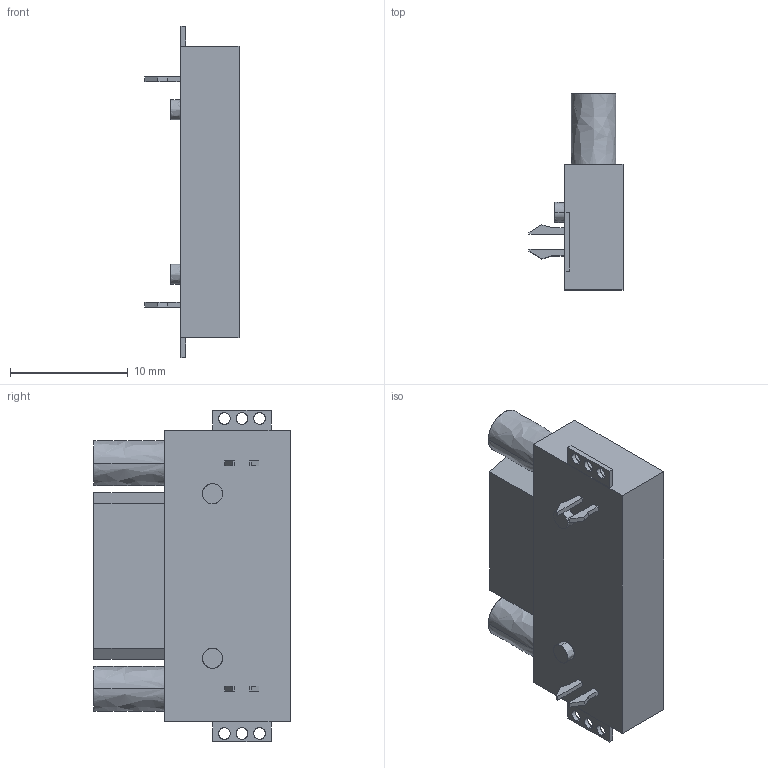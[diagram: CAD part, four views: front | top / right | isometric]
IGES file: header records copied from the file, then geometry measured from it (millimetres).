
Start section:  PTC IGES file: j5d-cn40a.igs
Global section: file name: j5d-cn40a.igs; native system: Creo Parametric by PTC Inc.; preprocessor: 2020184; author: VX25986; organization: Unknown; date: 20210323.200203; units: millimetre
Bounding box: 8 x 16.7 x 28.2 mm (x, y, z)
Surface area: 1553.4 mm2 (no closed solid volume)
Topology: 0 solids, 0 shells, 84 faces, 408 edges, 408 vertices
Faces by surface type: bspline 84
